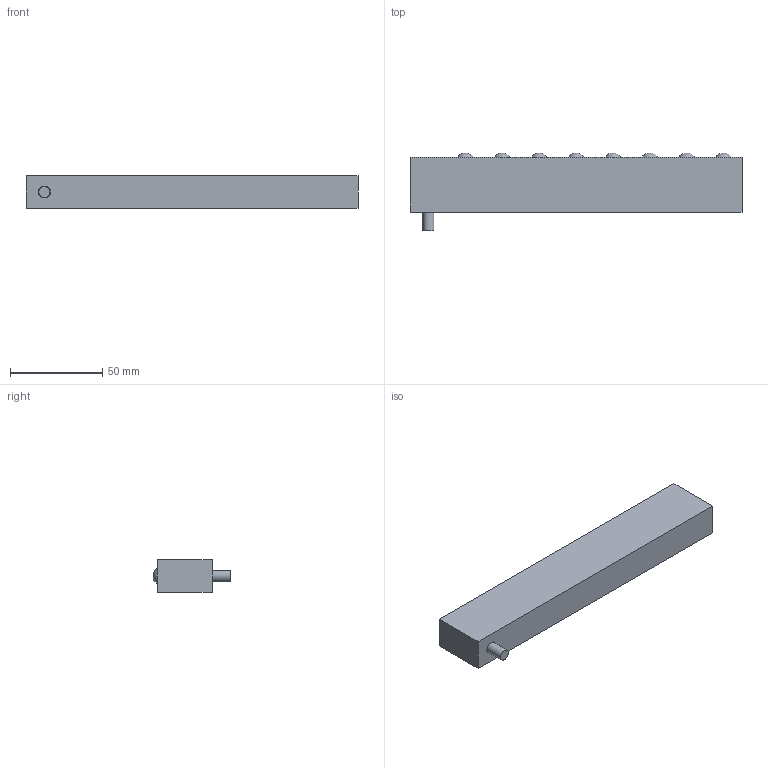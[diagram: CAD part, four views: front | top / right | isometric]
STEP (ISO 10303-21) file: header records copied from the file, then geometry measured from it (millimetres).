
FILE_DESCRIPTION(/* description */ (''),/* implementation_level */ '2;1');
FILE_NAME(/* name */ 'V:\Shrinkwrap\EMB\EMB - SHRINKWRAP\EMB18-8_Shrinkwrap_1.stp',/* time_stamp */ '2022-08-12T09:53:11+02:00',/* author */ ('cw'),/* organization */ (''),/* preprocessor_version */ 'ST-DEVELOPER v17',/* originating_system */ 'Autodesk Inventor 2019',/* authorisation */ '');
FILE_SCHEMA (('AUTOMOTIVE_DESIGN { 1 0 10303 214 3 1 1 }'));
Length unit declared in the file: millimetre
Products named in the file (1): EMB18-8_Shrinkwrap_1
Bounding box: 180 x 42.27 x 17.8 mm (x, y, z)
Volume: 94853.2 mm3; surface area: 19786.6 mm2
Topology: 1 solids, 1 shells, 22 faces, 34 edges, 26 vertices
Faces by surface type: plane 10, sphere 8, cylinder 4
Full cylindrical faces by diameter (mm): 6 x1, 6.5 x1, 10 x1, 11 x1
Entity records: 598 total; most frequent: DIRECTION 98, CARTESIAN_POINT 83, ORIENTED_EDGE 68, AXIS2_PLACEMENT_3D 41, EDGE_LOOP 34, EDGE_CURVE 34, VERTEX_POINT 26, STYLED_ITEM 23
